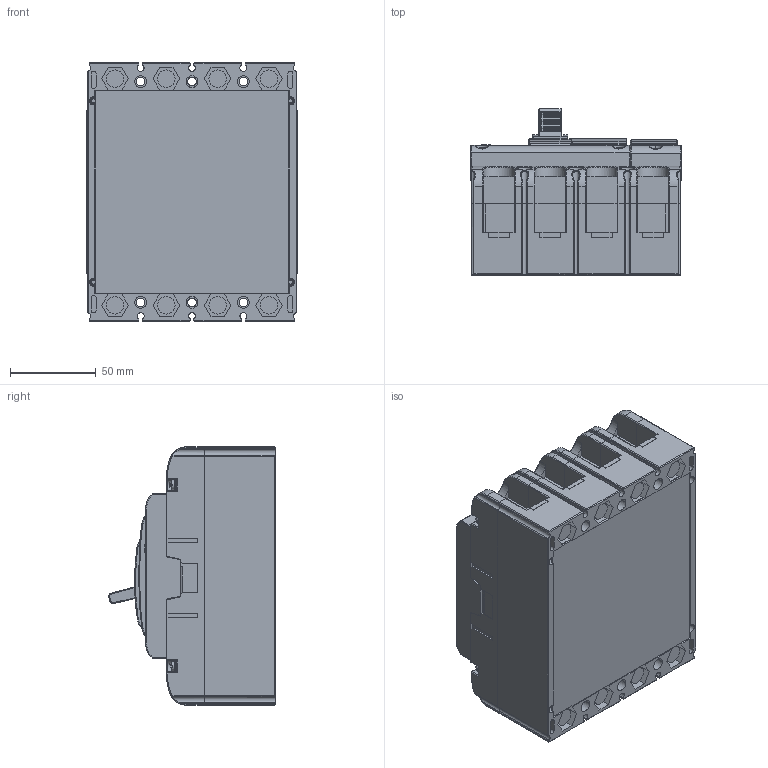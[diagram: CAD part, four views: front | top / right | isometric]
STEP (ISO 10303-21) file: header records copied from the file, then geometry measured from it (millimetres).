
FILE_DESCRIPTION((''),'2;1');
FILE_NAME('1_ASM','2019-01-24T',('Administrator'),(''),'PRO/ENGINEER BY PARAMETRIC TECHNOLOGY CORPORATION, 2017170','PRO/ENGINEER BY PARAMETRIC TECHNOLOGY CORPORATION, 2017170','');
FILE_SCHEMA(('CONFIG_CONTROL_DESIGN'));
Products named in the file (28): 8TZD_024_6014_1_1; 5TZD_024_6025_ASM_1_ASM_1_ASM; 8TZD_552_6009_1_1; 5TZD_552_6014_ASM_1_ASM_1_ASM; 8TZD_742_6058_1_1; 8TZD_742_6060_1_1; 8TZD_585_6029_1_1; 5TZD_585_6007_ASM_1_ASM_1_ASM; 5TZD_558_6019_ASM_1_ASM_1_ASM; 5TZD_558_6020_ASM_1_ASM_1_ASM; 5TZD_558_6021_ASM_1_ASM_1_ASM; 8TZD_585_6030_1_1; 5TZD_558_6022_ASM_1_ASM_1_ASM; 5TZD_558_6048_ASM_1_ASM_1_ASM; 8TZD_253_6010_1_1; 8TZD_742_6075_1_1; 8TZD_742_6062_1_1; 8TZD_315_6028_1_1; 5TZD_315_6008_ASM_1_ASM_1_ASM; 8TZD_253_6011_1_1; 8TZD_315_6039_1_1; 8TZD_315_6050_1_1; Q_TZJ0304_1-M3X25_1_1; GB_T9074_4-M3X6_1_1; 8TZD_750_6008_1_1; 2TZD_259_1235_ASM_1_ASM_1_ASM; 2TZD_259_1235_ASM_ASM_1_ASM; 1_ASM
Assembly tree (52 placements, depth 9):
  1_ASM
    2TZD_259_1235_ASM_ASM_1_ASM
      2TZD_259_1235_ASM_1_ASM_1_ASM
        5TZD_024_6025_ASM_1_ASM_1_ASM
          8TZD_024_6014_1_1
        5TZD_552_6014_ASM_1_ASM_1_ASM  x3
          8TZD_552_6009_1_1
        8TZD_742_6058_1_1  x4
        8TZD_742_6060_1_1  x4
        5TZD_558_6048_ASM_1_ASM_1_ASM
          5TZD_558_6021_ASM_1_ASM_1_ASM  x3
            5TZD_558_6020_ASM_1_ASM_1_ASM
              5TZD_558_6019_ASM_1_ASM_1_ASM
                5TZD_585_6007_ASM_1_ASM_1_ASM
                  8TZD_585_6029_1_1
          5TZD_558_6022_ASM_1_ASM_1_ASM
            8TZD_585_6030_1_1  x2
        8TZD_253_6010_1_1
        8TZD_742_6075_1_1
        8TZD_742_6062_1_1  x4
        5TZD_315_6008_ASM_1_ASM_1_ASM
          8TZD_315_6028_1_1
        8TZD_253_6011_1_1
        8TZD_315_6039_1_1
        8TZD_315_6050_1_1
        Q_TZJ0304_1-M3X25_1_1  x7
        GB_T9074_4-M3X6_1_1  x6
        8TZD_750_6008_1_1
Bounding box: 123 x 97.27 x 151 mm (x, y, z)
Volume: 1085700.7 mm3; surface area: 305533.4 mm2
Topology: 41 solids, 86 shells, 5108 faces, 14146 edges, 9319 vertices
Faces by surface type: plane 3796, cylinder 954, torus 176, bspline 89, sphere 60, cone 33
Entity records: 153030 total; most frequent: CARTESIAN_POINT 39302, ORIENTED_EDGE 24312, DIRECTION 22550, EDGE_CURVE 12168, VECTOR 9154, LINE 9154, VERTEX_POINT 8034, AXIS2_PLACEMENT_3D 6698
